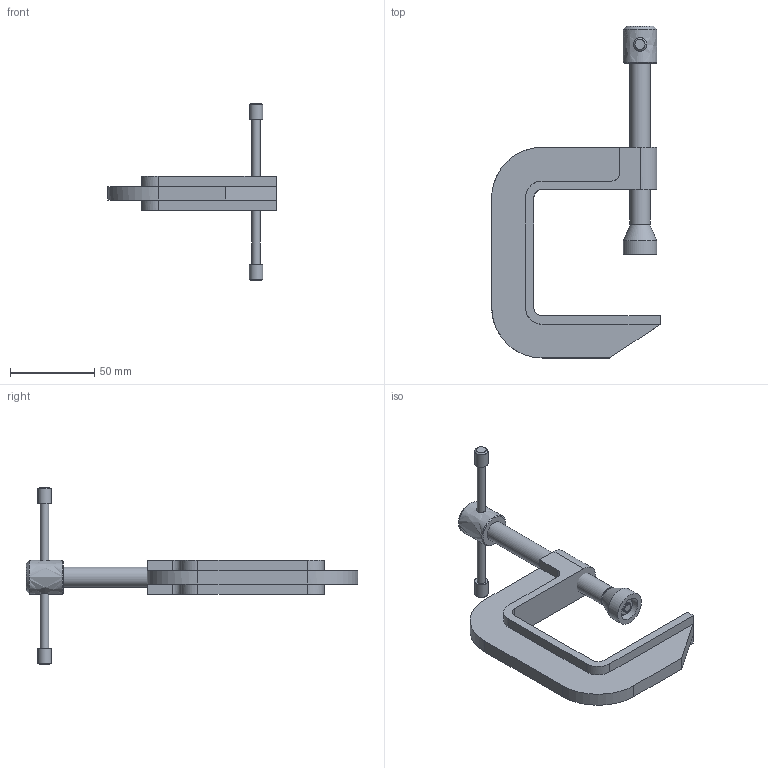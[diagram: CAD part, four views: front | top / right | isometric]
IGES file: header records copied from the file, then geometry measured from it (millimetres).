
Global section: file name: Assieme Morsa; native system: Autodesk Inventor 2023; preprocessor: unknown; author: x300; date: 20230531.184753; units: millimetre
Bounding box: 100 x 197 x 105.5 mm (x, y, z)
Volume: 88866 mm3; surface area: 33839.5 mm2
Topology: 7 solids, 7 shells, 89 faces, 217 edges, 147 vertices
Faces by surface type: bspline 89
